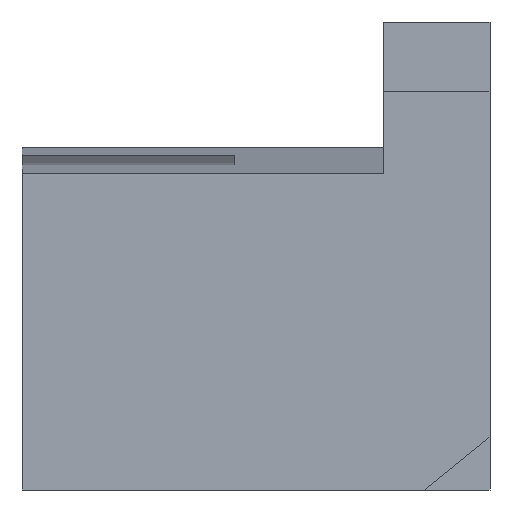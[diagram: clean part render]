
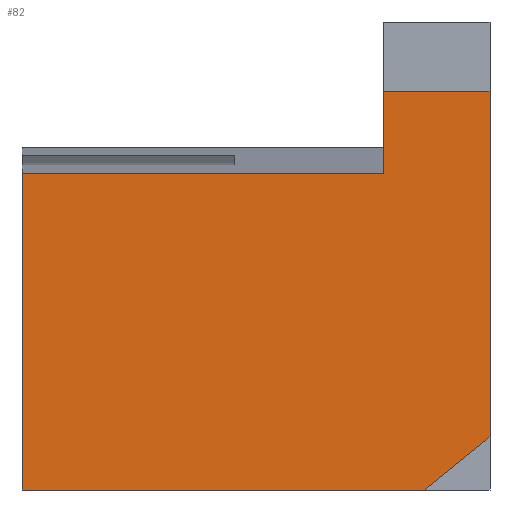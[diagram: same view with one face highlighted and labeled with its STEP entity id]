
A CAD part, front view. The second image highlights one B-rep face of the part: STEP entity #82.
In plain terms, the highlighted planar face has unit normal (0, -1, 0).
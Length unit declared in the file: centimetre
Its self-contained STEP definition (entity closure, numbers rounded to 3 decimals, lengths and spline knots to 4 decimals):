
#5 = CARTESIAN_POINT ( 'NONE',  ( 1000., 0., 113.0583 ) ) ;
#18 = CARTESIAN_POINT ( 'NONE',  ( 1000., 0., 852.5166 ) ) ;
#23 = EDGE_LOOP ( 'NONE', ( #311, #585, #243, #148, #150, #92, #549 ) ) ;
#40 = CARTESIAN_POINT ( 'NONE',  ( 0., 0., 0. ) ) ;
#47 = VECTOR ( 'NONE', #436, 100. ) ;
#57 = LINE ( 'NONE', #496, #416 ) ;
#72 = DIRECTION ( 'NONE',  ( 0., 0., -1. ) ) ;
#82 = ADVANCED_FACE ( 'NONE', ( #170 ), #391, .F. ) ;
#92 = ORIENTED_EDGE ( 'NONE', *, *, #365, .T. ) ;
#98 = AXIS2_PLACEMENT_3D ( 'NONE', #120, #342, #347 ) ;
#108 = CARTESIAN_POINT ( 'NONE',  ( 0., 0., 675.9024 ) ) ;
#120 = CARTESIAN_POINT ( 'NONE',  ( 0., 0., 1000. ) ) ;
#128 = CARTESIAN_POINT ( 'NONE',  ( 1000., 0., 852.5166 ) ) ;
#131 = VERTEX_POINT ( 'NONE', #552 ) ;
#136 = EDGE_CURVE ( 'NONE', #604, #679, #353, .T. ) ;
#148 = ORIENTED_EDGE ( 'NONE', *, *, #442, .T. ) ;
#150 = ORIENTED_EDGE ( 'NONE', *, *, #136, .T. ) ;
#160 = DIRECTION ( 'NONE',  ( 1., 0., 0. ) ) ;
#164 = EDGE_CURVE ( 'NONE', #535, #131, #675, .T. ) ;
#168 = EDGE_CURVE ( 'NONE', #172, #468, #455, .T. ) ;
#170 = FACE_OUTER_BOUND ( 'NONE', #23, .T. ) ;
#172 = VERTEX_POINT ( 'NONE', #128 ) ;
#201 = VERTEX_POINT ( 'NONE', #673 ) ;
#243 = ORIENTED_EDGE ( 'NONE', *, *, #164, .F. ) ;
#272 = VECTOR ( 'NONE', #518, 100. ) ;
#273 = LINE ( 'NONE', #277, #47 ) ;
#277 = CARTESIAN_POINT ( 'NONE',  ( 1000., 0., 113.0583 ) ) ;
#304 = DIRECTION ( 'NONE',  ( -1., 0., 0. ) ) ;
#311 = ORIENTED_EDGE ( 'NONE', *, *, #168, .F. ) ;
#337 = CARTESIAN_POINT ( 'NONE',  ( 772.7047, 0., 675.9024 ) ) ;
#338 = DIRECTION ( 'NONE',  ( -1., 0., 0. ) ) ;
#342 = DIRECTION ( 'NONE',  ( 0., 1., 0. ) ) ;
#347 = DIRECTION ( 'NONE',  ( 0., 0., 1. ) ) ;
#353 = LINE ( 'NONE', #569, #272 ) ;
#365 = EDGE_CURVE ( 'NONE', #679, #201, #641, .T. ) ;
#378 = VECTOR ( 'NONE', #571, 100. ) ;
#391 = PLANE ( 'NONE',  #98 ) ;
#407 = LINE ( 'NONE', #18, #443 ) ;
#409 = CARTESIAN_POINT ( 'NONE',  ( 0., 0., 0. ) ) ;
#416 = VECTOR ( 'NONE', #338, 100. ) ;
#436 = DIRECTION ( 'NONE',  ( -0.778, 0., -0.628 ) ) ;
#442 = EDGE_CURVE ( 'NONE', #535, #604, #57, .T. ) ;
#443 = VECTOR ( 'NONE', #304, 100. ) ;
#455 = LINE ( 'NONE', #509, #519 ) ;
#456 = CARTESIAN_POINT ( 'NONE',  ( 772.7047, 0., 675.9024 ) ) ;
#468 = VERTEX_POINT ( 'NONE', #5 ) ;
#496 = CARTESIAN_POINT ( 'NONE',  ( 772.7047, 0., 675.9024 ) ) ;
#509 = CARTESIAN_POINT ( 'NONE',  ( 1000., 0., 1000. ) ) ;
#518 = DIRECTION ( 'NONE',  ( 0., 0., -1. ) ) ;
#519 = VECTOR ( 'NONE', #72, 100. ) ;
#535 = VERTEX_POINT ( 'NONE', #337 ) ;
#549 = ORIENTED_EDGE ( 'NONE', *, *, #596, .F. ) ;
#552 = CARTESIAN_POINT ( 'NONE',  ( 772.7047, 0., 852.5166 ) ) ;
#569 = CARTESIAN_POINT ( 'NONE',  ( 0., 0., 1000. ) ) ;
#571 = DIRECTION ( 'NONE',  ( 0., 0., 1. ) ) ;
#585 = ORIENTED_EDGE ( 'NONE', *, *, #692, .T. ) ;
#596 = EDGE_CURVE ( 'NONE', #468, #201, #273, .T. ) ;
#604 = VERTEX_POINT ( 'NONE', #108 ) ;
#634 = VECTOR ( 'NONE', #160, 100. ) ;
#641 = LINE ( 'NONE', #40, #634 ) ;
#673 = CARTESIAN_POINT ( 'NONE',  ( 860.0612, 0., 0. ) ) ;
#675 = LINE ( 'NONE', #456, #378 ) ;
#679 = VERTEX_POINT ( 'NONE', #409 ) ;
#692 = EDGE_CURVE ( 'NONE', #172, #131, #407, .T. ) ;
